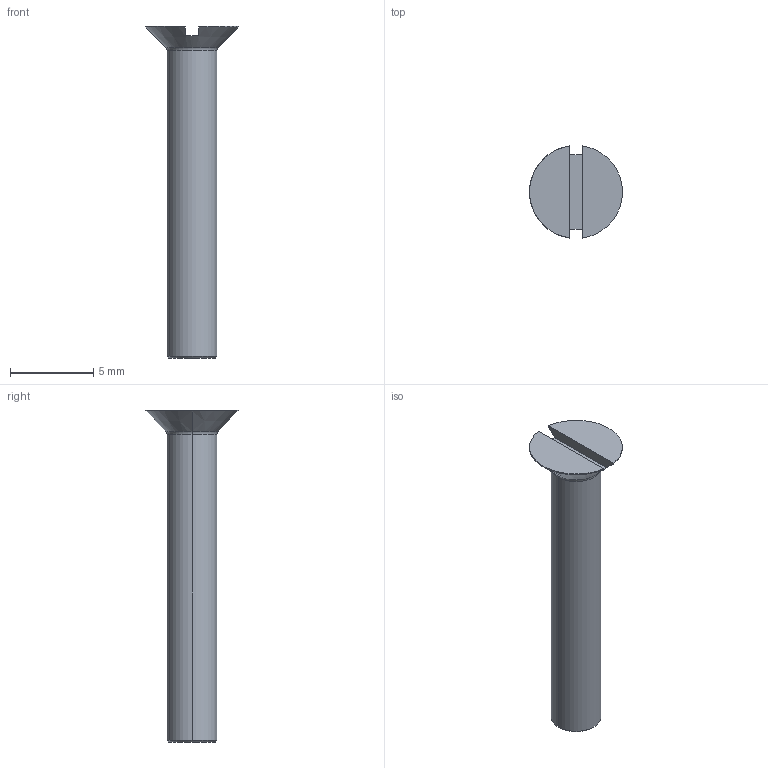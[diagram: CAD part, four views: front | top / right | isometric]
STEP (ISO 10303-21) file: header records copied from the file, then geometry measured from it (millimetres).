
FILE_DESCRIPTION (( 'STEP AP214' ), '1' );
FILE_NAME ('TR Fastenings Ltd-M3X20mm.STEP', '2019-02-20T11:36:52', ( '' ), ( '' ), 'SwSTEP 2.0', 'SolidWorks 2019', '' );
FILE_SCHEMA (( 'AUTOMOTIVE_DESIGN' ));
Length unit declared in the file: millimetre
Products named in the file (1): TR Fastenings Ltd-M3X20mm
Bounding box: 5.6 x 5.54 x 20 mm (x, y, z)
Volume: 150.2 mm3; surface area: 236.5 mm2
Topology: 1 solids, 1 shells, 17 faces, 38 edges, 23 vertices
Faces by surface type: plane 6, cylinder 5, cone 4, torus 2
Entity records: 535 total; most frequent: CARTESIAN_POINT 91, DIRECTION 89, ORIENTED_EDGE 76, EDGE_CURVE 38, AXIS2_PLACEMENT_3D 37, VERTEX_POINT 23, CIRCLE 19, EDGE_LOOP 17
